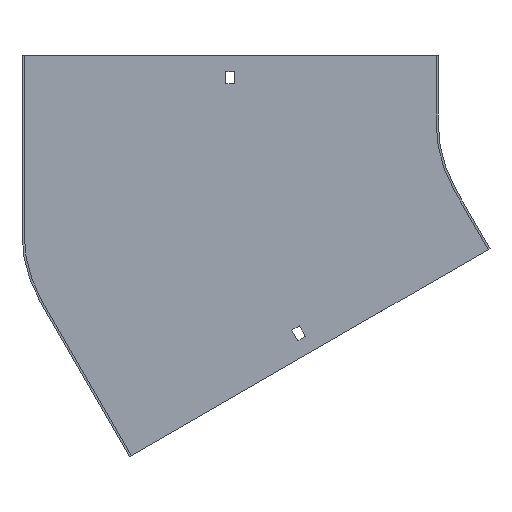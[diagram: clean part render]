
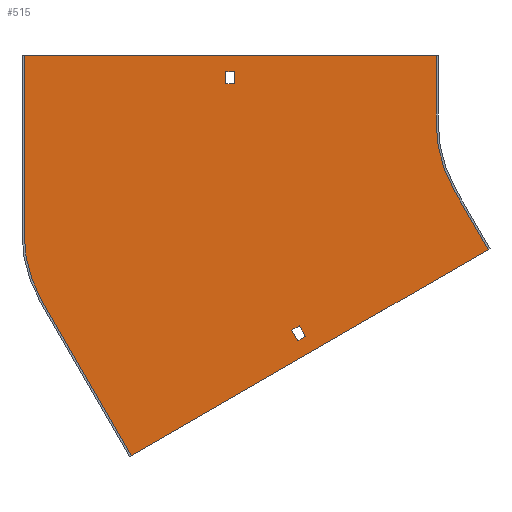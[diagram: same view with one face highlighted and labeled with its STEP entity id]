
A CAD part, front view. The second image highlights one B-rep face of the part: STEP entity #515.
In plain terms, the highlighted planar face has unit normal (0, -1, 0).
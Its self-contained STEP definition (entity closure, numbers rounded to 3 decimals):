
#8 = VERTEX_POINT ( 'NONE', #211 ) ;
#11 = VECTOR ( 'NONE', #403, 1000. ) ;
#16 = LINE ( 'NONE', #499, #49 ) ;
#29 = DIRECTION ( 'NONE',  ( 0., -1., 0. ) ) ;
#31 = DIRECTION ( 'NONE',  ( 0., 0., -1. ) ) ;
#34 = LINE ( 'NONE', #713, #213 ) ;
#36 = EDGE_CURVE ( 'NONE', #156, #862, #262, .T. ) ;
#43 = DIRECTION ( 'NONE',  ( -0.866, 0., -0.5 ) ) ;
#49 = VECTOR ( 'NONE', #230, 1000. ) ;
#61 = CARTESIAN_POINT ( 'NONE',  ( -255.25, -1.5, 38. ) ) ;
#67 = EDGE_CURVE ( 'NONE', #718, #156, #723, .T. ) ;
#72 = LINE ( 'NONE', #751, #593 ) ;
#86 = CARTESIAN_POINT ( 'NONE',  ( -200.924, -1.5, -149.49 ) ) ;
#89 = DIRECTION ( 'NONE',  ( 0., 0., -1. ) ) ;
#90 = ORIENTED_EDGE ( 'NONE', *, *, #187, .F. ) ;
#93 = ORIENTED_EDGE ( 'NONE', *, *, #604, .T. ) ;
#95 = VECTOR ( 'NONE', #127, 1000. ) ;
#99 = LINE ( 'NONE', #647, #496 ) ;
#111 = VERTEX_POINT ( 'NONE', #263 ) ;
#115 = VERTEX_POINT ( 'NONE', #657 ) ;
#117 = ORIENTED_EDGE ( 'NONE', *, *, #474, .F. ) ;
#119 = ORIENTED_EDGE ( 'NONE', *, *, #36, .F. ) ;
#124 = CARTESIAN_POINT ( 'NONE',  ( -255.25, -1.5, 0. ) ) ;
#127 = DIRECTION ( 'NONE',  ( 0.5, 0., -0.866 ) ) ;
#143 = ORIENTED_EDGE ( 'NONE', *, *, #860, .F. ) ;
#146 = ORIENTED_EDGE ( 'NONE', *, *, #597, .T. ) ;
#147 = CARTESIAN_POINT ( 'NONE',  ( -60.304, -1.5, -92.551 ) ) ;
#152 = DIRECTION ( 'NONE',  ( 1., 0., 0. ) ) ;
#155 = EDGE_CURVE ( 'NONE', #165, #564, #667, .T. ) ;
#156 = VERTEX_POINT ( 'NONE', #599 ) ;
#164 = VERTEX_POINT ( 'NONE', #61 ) ;
#165 = VERTEX_POINT ( 'NONE', #534 ) ;
#169 = EDGE_LOOP ( 'NONE', ( #550, #212, #119, #585 ) ) ;
#182 = VECTOR ( 'NONE', #43, 1000. ) ;
#187 = EDGE_CURVE ( 'NONE', #319, #8, #408, .T. ) ;
#191 = LINE ( 'NONE', #124, #11 ) ;
#201 = VERTEX_POINT ( 'NONE', #806 ) ;
#203 = VERTEX_POINT ( 'NONE', #224 ) ;
#211 = CARTESIAN_POINT ( 'NONE',  ( -404., -1.5, 50. ) ) ;
#212 = ORIENTED_EDGE ( 'NONE', *, *, #502, .F. ) ;
#213 = VECTOR ( 'NONE', #31, 1000. ) ;
#214 = CARTESIAN_POINT ( 'NONE',  ( -86.603, -1.5, -50. ) ) ;
#217 = CARTESIAN_POINT ( 'NONE',  ( -324.874, -1.5, -245.301 ) ) ;
#224 = CARTESIAN_POINT ( 'NONE',  ( -390.603, -1.5, -131.457 ) ) ;
#227 = LINE ( 'NONE', #217, #817 ) ;
#228 = DIRECTION ( 'NONE',  ( 0., 0., -1. ) ) ;
#230 = DIRECTION ( 'NONE',  ( 0., 0., -1. ) ) ;
#235 = EDGE_CURVE ( 'NONE', #8, #691, #759, .T. ) ;
#245 = DIRECTION ( 'NONE',  ( 0., 1., 0. ) ) ;
#249 = FACE_BOUND ( 'NONE', #254, .T. ) ;
#254 = EDGE_LOOP ( 'NONE', ( #146, #672, #744, #93 ) ) ;
#256 = VECTOR ( 'NONE', #152, 1000. ) ;
#259 = CARTESIAN_POINT ( 'NONE',  ( -202.053, -1.5, -160.534 ) ) ;
#261 = VECTOR ( 'NONE', #458, 1000. ) ;
#262 = LINE ( 'NONE', #652, #261 ) ;
#263 = CARTESIAN_POINT ( 'NONE',  ( -324.874, -1.5, -245.301 ) ) ;
#279 = CARTESIAN_POINT ( 'NONE',  ( 14.5, -1.5, -25.115 ) ) ;
#288 = DIRECTION ( 'NONE',  ( 1., 0., 0. ) ) ;
#295 = DIRECTION ( 'NONE',  ( 0., -1., 0. ) ) ;
#296 = ORIENTED_EDGE ( 'NONE', *, *, #662, .F. ) ;
#304 = CIRCLE ( 'NONE', #651, 100. ) ;
#315 = DIRECTION ( 'NONE',  ( 0.866, 0., 0.5 ) ) ;
#319 = VERTEX_POINT ( 'NONE', #506 ) ;
#367 = EDGE_CURVE ( 'NONE', #527, #165, #34, .T. ) ;
#403 = DIRECTION ( 'NONE',  ( 0., 0., 1. ) ) ;
#408 = LINE ( 'NONE', #670, #438 ) ;
#418 = AXIS2_PLACEMENT_3D ( 'NONE', #769, #245, #717 ) ;
#435 = ORIENTED_EDGE ( 'NONE', *, *, #577, .F. ) ;
#438 = VECTOR ( 'NONE', #675, 1000. ) ;
#443 = FACE_BOUND ( 'NONE', #169, .T. ) ;
#446 = VERTEX_POINT ( 'NONE', #543 ) ;
#447 = CARTESIAN_POINT ( 'NONE',  ( -248.75, -1.5, 38. ) ) ;
#452 = PLANE ( 'NONE',  #555 ) ;
#458 = DIRECTION ( 'NONE',  ( 0.5, 0., -0.866 ) ) ;
#461 = ORIENTED_EDGE ( 'NONE', *, *, #235, .F. ) ;
#463 = EDGE_CURVE ( 'NONE', #111, #203, #227, .T. ) ;
#467 = ORIENTED_EDGE ( 'NONE', *, *, #463, .F. ) ;
#474 = EDGE_CURVE ( 'NONE', #556, #111, #758, .T. ) ;
#488 = DIRECTION ( 'NONE',  ( -0.5, 0., 0.866 ) ) ;
#493 = CARTESIAN_POINT ( 'NONE',  ( -215.424, -1.5, -124.375 ) ) ;
#496 = VECTOR ( 'NONE', #315, 1000. ) ;
#497 = CARTESIAN_POINT ( 'NONE',  ( -100., -1.5, 50. ) ) ;
#499 = CARTESIAN_POINT ( 'NONE',  ( -100., -1.5, 50. ) ) ;
#502 = EDGE_CURVE ( 'NONE', #862, #446, #99, .T. ) ;
#506 = CARTESIAN_POINT ( 'NONE',  ( -404., -1.5, -81.457 ) ) ;
#515 = ADVANCED_FACE ( 'NONE', ( #443, #839, #249 ), #452, .T. ) ;
#521 = VECTOR ( 'NONE', #757, 1000. ) ;
#527 = VERTEX_POINT ( 'NONE', #447 ) ;
#534 = CARTESIAN_POINT ( 'NONE',  ( -248.75, -1.5, 29. ) ) ;
#540 = CARTESIAN_POINT ( 'NONE',  ( -61.603, -1.5, -93.301 ) ) ;
#543 = CARTESIAN_POINT ( 'NONE',  ( -196.424, -1.5, -157.284 ) ) ;
#550 = ORIENTED_EDGE ( 'NONE', *, *, #724, .F. ) ;
#555 = AXIS2_PLACEMENT_3D ( 'NONE', #649, #295, #228 ) ;
#556 = VERTEX_POINT ( 'NONE', #540 ) ;
#557 = CIRCLE ( 'NONE', #418, 100. ) ;
#561 = DIRECTION ( 'NONE',  ( -0.866, 0., -0.5 ) ) ;
#562 = LINE ( 'NONE', #493, #521 ) ;
#564 = VERTEX_POINT ( 'NONE', #739 ) ;
#577 = EDGE_CURVE ( 'NONE', #201, #556, #815, .T. ) ;
#585 = ORIENTED_EDGE ( 'NONE', *, *, #67, .F. ) ;
#593 = VECTOR ( 'NONE', #288, 1000. ) ;
#597 = EDGE_CURVE ( 'NONE', #164, #527, #72, .T. ) ;
#599 = CARTESIAN_POINT ( 'NONE',  ( -206.553, -1.5, -152.74 ) ) ;
#604 = EDGE_CURVE ( 'NONE', #564, #164, #191, .T. ) ;
#605 = DIRECTION ( 'NONE',  ( -1., 0., 0. ) ) ;
#647 = CARTESIAN_POINT ( 'NONE',  ( 19., -1.5, -32.909 ) ) ;
#649 = CARTESIAN_POINT ( 'NONE',  ( 0., -1.5, 0. ) ) ;
#651 = AXIS2_PLACEMENT_3D ( 'NONE', #821, #29, #89 ) ;
#652 = CARTESIAN_POINT ( 'NONE',  ( -221.053, -1.5, -127.625 ) ) ;
#657 = CARTESIAN_POINT ( 'NONE',  ( -100., -1.5, 0. ) ) ;
#662 = EDGE_CURVE ( 'NONE', #115, #201, #304, .T. ) ;
#667 = LINE ( 'NONE', #740, #816 ) ;
#670 = CARTESIAN_POINT ( 'NONE',  ( -404., -1.5, -81.457 ) ) ;
#672 = ORIENTED_EDGE ( 'NONE', *, *, #367, .T. ) ;
#675 = DIRECTION ( 'NONE',  ( 0., 0., 1. ) ) ;
#691 = VERTEX_POINT ( 'NONE', #497 ) ;
#694 = CARTESIAN_POINT ( 'NONE',  ( -405.5, -1.5, 50. ) ) ;
#713 = CARTESIAN_POINT ( 'NONE',  ( -248.75, -1.5, 0. ) ) ;
#717 = DIRECTION ( 'NONE',  ( 0., 0., -1. ) ) ;
#718 = VERTEX_POINT ( 'NONE', #86 ) ;
#723 = LINE ( 'NONE', #279, #182 ) ;
#724 = EDGE_CURVE ( 'NONE', #446, #718, #562, .T. ) ;
#739 = CARTESIAN_POINT ( 'NONE',  ( -255.25, -1.5, 29. ) ) ;
#740 = CARTESIAN_POINT ( 'NONE',  ( 0., -1.5, 29. ) ) ;
#744 = ORIENTED_EDGE ( 'NONE', *, *, #155, .T. ) ;
#748 = VECTOR ( 'NONE', #561, 1000. ) ;
#751 = CARTESIAN_POINT ( 'NONE',  ( 0., -1.5, 38. ) ) ;
#756 = EDGE_CURVE ( 'NONE', #691, #115, #16, .T. ) ;
#757 = DIRECTION ( 'NONE',  ( -0.5, 0., 0.866 ) ) ;
#758 = LINE ( 'NONE', #147, #748 ) ;
#759 = LINE ( 'NONE', #694, #256 ) ;
#769 = CARTESIAN_POINT ( 'NONE',  ( -304., -1.5, -81.457 ) ) ;
#789 = EDGE_LOOP ( 'NONE', ( #461, #90, #143, #467, #117, #435, #296, #792 ) ) ;
#792 = ORIENTED_EDGE ( 'NONE', *, *, #756, .F. ) ;
#806 = CARTESIAN_POINT ( 'NONE',  ( -86.603, -1.5, -50. ) ) ;
#815 = LINE ( 'NONE', #214, #95 ) ;
#816 = VECTOR ( 'NONE', #605, 1000. ) ;
#817 = VECTOR ( 'NONE', #488, 1000. ) ;
#821 = CARTESIAN_POINT ( 'NONE',  ( 0., -1.5, 0. ) ) ;
#839 = FACE_OUTER_BOUND ( 'NONE', #789, .T. ) ;
#860 = EDGE_CURVE ( 'NONE', #203, #319, #557, .T. ) ;
#862 = VERTEX_POINT ( 'NONE', #259 ) ;
